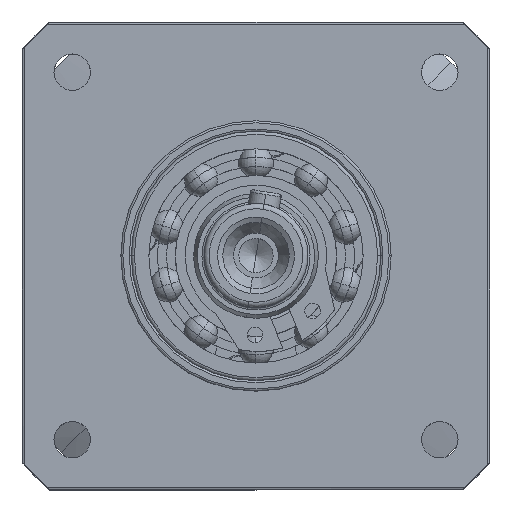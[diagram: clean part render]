
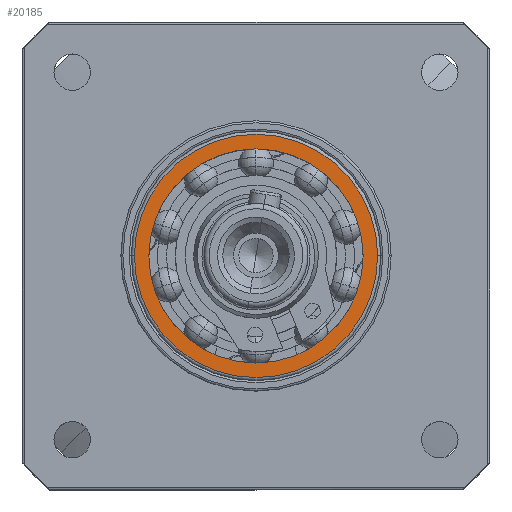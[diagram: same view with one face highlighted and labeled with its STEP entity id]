
A CAD part, top view. The second image highlights one B-rep face of the part: STEP entity #20185.
In plain terms, the highlighted planar face has unit normal (0, 0, 1).
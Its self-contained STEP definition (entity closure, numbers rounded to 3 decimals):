
#1087 = CARTESIAN_POINT ( 'NONE',  ( -4.81, 25.562, 46.25 ) ) ;
#1230 = AXIS2_PLACEMENT_3D ( 'NONE', #1087, #38518, #16119 ) ;
#1949 = CARTESIAN_POINT ( 'NONE',  ( -4.81, 13.862, 46.25 ) ) ;
#2394 = ORIENTED_EDGE ( 'NONE', *, *, #10885, .T. ) ;
#3704 = ORIENTED_EDGE ( 'NONE', *, *, #4748, .T. ) ;
#3731 = VERTEX_POINT ( 'NONE', #29241 ) ;
#4235 = CARTESIAN_POINT ( 'NONE',  ( -16.51, 13.862, 46.25 ) ) ;
#4658 = DIRECTION ( 'NONE',  ( 1., 0., 0. ) ) ;
#4748 = EDGE_CURVE ( 'NONE', #14552, #27924, #22690, .T. ) ;
#9411 = FACE_OUTER_BOUND ( 'NONE', #44235, .T. ) ;
#10513 = CARTESIAN_POINT ( 'NONE',  ( -4.81, 13.862, 46.25 ) ) ;
#10885 = EDGE_CURVE ( 'NONE', #27924, #14552, #37583, .T. ) ;
#10985 = DIRECTION ( 'NONE',  ( 0., 0., 1. ) ) ;
#11062 = CARTESIAN_POINT ( 'NONE',  ( 6.89, 13.862, 46.25 ) ) ;
#12420 = DIRECTION ( 'NONE',  ( 0., 0., 1. ) ) ;
#14552 = VERTEX_POINT ( 'NONE', #11062 ) ;
#16119 = DIRECTION ( 'NONE',  ( -1., 0., 0. ) ) ;
#17113 = AXIS2_PLACEMENT_3D ( 'NONE', #10513, #10985, #36844 ) ;
#17980 = DIRECTION ( 'NONE',  ( 1., 0., 0. ) ) ;
#18691 = AXIS2_PLACEMENT_3D ( 'NONE', #46451, #35133, #4658 ) ;
#19506 = ORIENTED_EDGE ( 'NONE', *, *, #23898, .F. ) ;
#19857 = AXIS2_PLACEMENT_3D ( 'NONE', #21602, #36481, #17980 ) ;
#20185 = ADVANCED_FACE ( 'NONE', ( #34572, #9411 ), #34436, .F. ) ;
#21602 = CARTESIAN_POINT ( 'NONE',  ( -4.81, 13.862, 46.25 ) ) ;
#22690 = CIRCLE ( 'NONE', #18691, 11.7 ) ;
#23898 = EDGE_CURVE ( 'NONE', #3731, #44936, #27929, .T. ) ;
#24151 = ORIENTED_EDGE ( 'NONE', *, *, #37597, .F. ) ;
#25237 = CIRCLE ( 'NONE', #17113, 10.3 ) ;
#27477 = DIRECTION ( 'NONE',  ( 1., 0., 0. ) ) ;
#27924 = VERTEX_POINT ( 'NONE', #4235 ) ;
#27929 = CIRCLE ( 'NONE', #19857, 10.3 ) ;
#29241 = CARTESIAN_POINT ( 'NONE',  ( 5.49, 13.862, 46.25 ) ) ;
#34436 = PLANE ( 'NONE',  #1230 ) ;
#34572 = FACE_BOUND ( 'NONE', #45587, .T. ) ;
#35133 = DIRECTION ( 'NONE',  ( 0., 0., 1. ) ) ;
#36481 = DIRECTION ( 'NONE',  ( 0., 0., 1. ) ) ;
#36844 = DIRECTION ( 'NONE',  ( 1., 0., 0. ) ) ;
#37583 = CIRCLE ( 'NONE', #44561, 11.7 ) ;
#37597 = EDGE_CURVE ( 'NONE', #44936, #3731, #25237, .T. ) ;
#38518 = DIRECTION ( 'NONE',  ( 0., 0., -1. ) ) ;
#44235 = EDGE_LOOP ( 'NONE', ( #3704, #2394 ) ) ;
#44561 = AXIS2_PLACEMENT_3D ( 'NONE', #1949, #12420, #27477 ) ;
#44680 = CARTESIAN_POINT ( 'NONE',  ( -15.11, 13.862, 46.25 ) ) ;
#44936 = VERTEX_POINT ( 'NONE', #44680 ) ;
#45587 = EDGE_LOOP ( 'NONE', ( #19506, #24151 ) ) ;
#46451 = CARTESIAN_POINT ( 'NONE',  ( -4.81, 13.862, 46.25 ) ) ;
